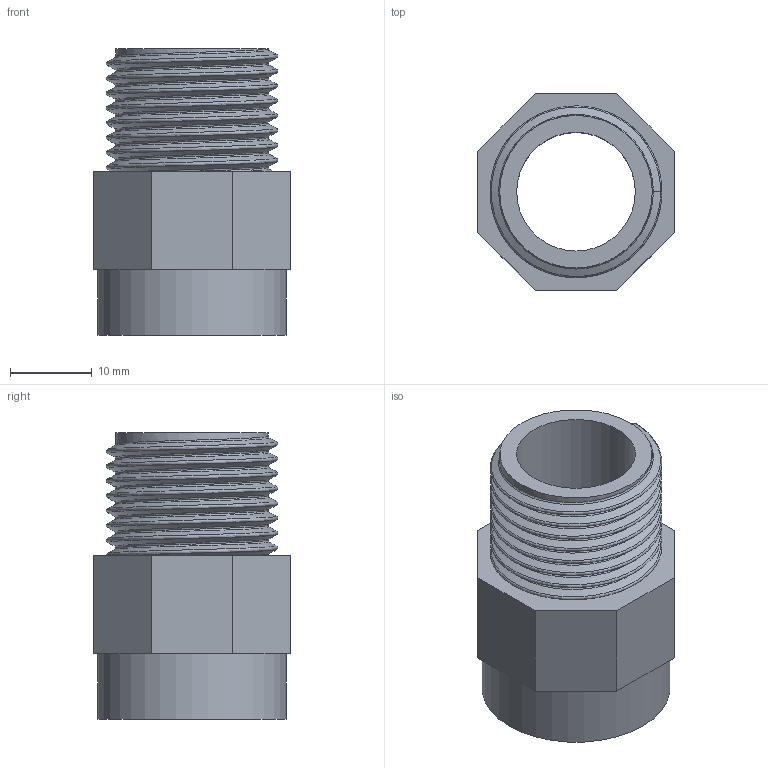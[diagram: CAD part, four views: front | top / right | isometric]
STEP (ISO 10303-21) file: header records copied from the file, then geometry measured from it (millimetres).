
FILE_DESCRIPTION(/* description */ ('PVC riduzione filettata BSP maschio-femmina'),/* implementation_level */ '2;1');
FILE_NAME(/* name */ 'C:\Users\POLYPIPE\Desktop\DATASET INVENTOR\LIBRERIA EFFAST\RACCORDI 3DxWEB\RER\3D_RERRIE\3D_RERRIE020A.stp',/* time_stamp */ '2018-01-19T17:00:24+01:00',/* author */ ('POLYPIPE'),/* organization */ ('Polypipe Italia s.r.l.'),/* preprocessor_version */ 'ST-DEVELOPER v16.1',/* originating_system */ 'Autodesk Inventor 2016',/* authorisation */ '');
FILE_SCHEMA (('CONFIG_CONTROL_DESIGN'));
Length unit declared in the file: millimetre
Products named in the file (1): 3D_RERRIE020A
Bounding box: 24 x 24 x 35 mm (x, y, z)
Volume: 7405.1 mm3; surface area: 5864.2 mm2
Topology: 1 solids, 1 shells, 30 faces, 69 edges, 44 vertices
Faces by surface type: plane 15, bspline 10, cylinder 5
Full cylindrical faces by diameter (mm): 14.5 x1, 18.631 x1, 23 x1
Entity records: 8005 total; most frequent: CARTESIAN_POINT 7367, ORIENTED_EDGE 134, DIRECTION 99, EDGE_CURVE 67, VERTEX_POINT 44, EDGE_LOOP 37, AXIS2_PLACEMENT_3D 34, LINE 31
